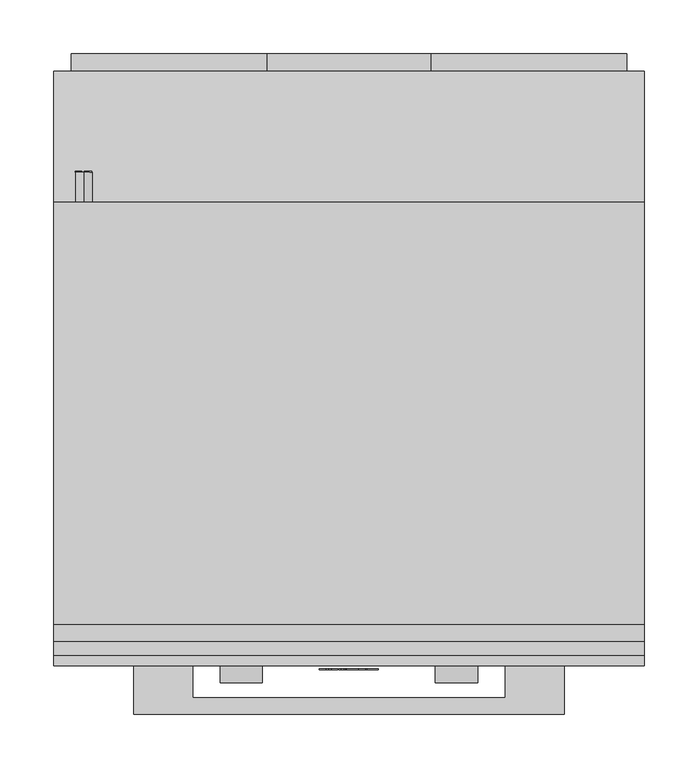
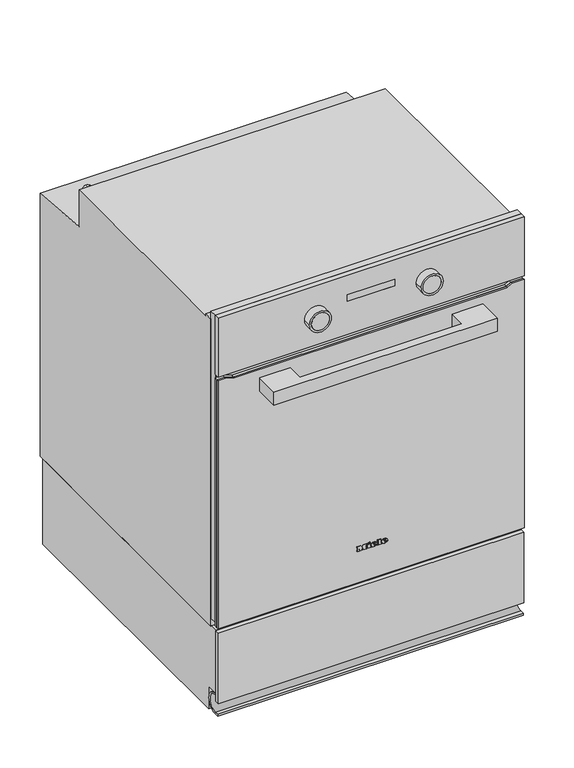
"""IFC4 building model written with IfcOpenShell, lengths in millimetres: proxy geometry, 12146110_CH_H2861-55BP_OBSW : 22286129_CH_12146110_H2861-55BP_OBSW."""

from ifc_helpers import new_model, si_unit, point, frame, frame_2d, origin, place, context, project, spatial, polyline, circle_curve, ellipse_curve, trimmed, segment, composite_curve, outline, extrude, faceted_brep, source, transform, mapped, element, save
from ifc_brep_helpers import plane_surface, cylinder_surface, revolved_surface, extruded_surface, advanced_brep


def specialty_equipment_9ac13989(model_context):
    return source(origin(), model_context, "Body", "SolidModel", [
        extrude(outline(polyline([(-273.5, -14.0), (273.5, -14.0), (273.5, -22.0), (-273.5, -22.0), (-273.5, -14.0)])), frame((0.0, 0.0, 28.0), z_axis=(0.0, 0.0, 1.0), x_axis=(1.0, 0.0, 0.0)), (0.0, 0.0, 1.0), 133.5),
        extrude(outline(composite_curve([segment(polyline([(-20.0, 3.3413786), (-20.0, 6.5166751), (-12.6417749, 6.5166751)]), True, "CONTINUOUS"), segment(trimmed(circle_curve(frame_2d((-12.6417749, 23.0333249)), 16.5166498), [point((-12.6417749, 6.5166751))], [point((-11.3579007, 39.5))], True, "CARTESIAN"), True, "CONTINUOUS"), segment(polyline([(-11.3579007, 39.5), (-14.0, 39.5), (-14.0, 42.0), (-12.0, 42.0)]), True, "CONTINUOUS"), segment(trimmed(circle_curve(frame_2d((-12.0, 23.0)), 19.0), [point((-12.0, 42.0))], [point((7.0, 23.0))], False, "CARTESIAN"), True, "CONTINUOUS"), segment(trimmed(circle_curve(frame_2d((-14.9470942, 23.0)), 21.9470942), [point((7.0, 23.0))], [point((3.3965309, 10.9506696))], False, "CARTESIAN"), True, "CONTINUOUS"), segment(trimmed(circle_curve(frame_2d((-12.0, 22.7225846)), 19.381206), [point((3.3965309, 10.9506696))], [point((-12.0, 3.3413786))], False, "CARTESIAN"), True, "CONTINUOUS"), segment(polyline([(-12.0, 3.3413786), (-20.0, 3.3413786)]), True, "CONTINUOUS")], self_intersect=False)), frame((-273.5, 0.0, 0.0), z_axis=(1.0, 0.0, 0.0), x_axis=(0.0, 1.0, 0.0)), (0.0, 0.0, 1.0), 547.0),
        extrude(outline(polyline([(-14.0, 162.0), (522.0, 162.0), (522.0, 0.0), (8.0, 0.0), (8.0, 43.1784801), (-14.0, 43.1784801), (-14.0, 162.0)])), frame((-273.5, 0.0, 0.0), z_axis=(1.0, 0.0, 0.0), x_axis=(0.0, 1.0, 0.0)), (0.0, 0.0, 1.0), 547.0),
        advanced_brep(
        [(21.28, -26.0, 234.133), (21.28, -26.0, 235.042), (27.301, -26.0, 235.042), (16.825, -26.0, 235.042), (19.3, -26.0, 232.0), (27.148, -26.0, 234.133), (24.43, -26.0, 234.133), (22.288, -26.0, 233.125), (21.28, -26.0, 236.194), (21.28, -26.0, 237.175), (22.819, -26.0, 237.175), (22.819, -26.0, 236.194), (21.28, -25.0, 234.133), (22.288, -25.0, 233.125), (24.43, -25.0, 234.133), (27.148, -25.0, 234.133), (19.3, -25.0, 232.0), (16.825, -25.0, 235.042), (27.301, -25.0, 235.042), (21.28, -25.0, 235.042), (21.28, -25.0, 236.194), (22.819, -25.0, 236.194), (22.819, -25.0, 237.175), (21.28, -25.0, 237.175)],
        [
            (0, 1),
            (1, 2),
            (2, 3, ellipse_curve(frame((22.063, -26.0, 235.042), z_axis=(0.0, -1.0, 0.0), x_axis=(-1.0, 0.0, 0.0)), 5.238, 4.329)),
            (3, 4, circle_curve(frame((20.3080491, -26.0, 235.348), z_axis=(0.0, -1.0, 0.0), x_axis=(0.0, 0.0, -1.0)), 3.4964649)),
            (4, 5, circle_curve(frame((21.9581428, -26.0, 237.724), z_axis=(0.0, -1.0, 0.0), x_axis=(0.0, 0.0, -1.0)), 6.3110933)),
            (5, 6),
            (6, 7, circle_curve(frame((22.7279412, -26.0, 234.97), z_axis=(0.0, 1.0, 0.0), x_axis=(0.0, 0.0, -1.0)), 1.896727)),
            (7, 0, circle_curve(frame((22.288, -26.0, 234.133), z_axis=(0.0, 1.0, 0.0), x_axis=(0.0, 0.0, -1.0)), 1.008)),
            (8, 9),
            (9, 10, circle_curve(frame((22.0495, -26.0, 237.175), z_axis=(0.0, 1.0, 0.0), x_axis=(0.0, 0.0, -1.0)), 0.7695)),
            (10, 11),
            (11, 8),
            (12, 13, circle_curve(frame((22.288, -25.0, 234.133), z_axis=(0.0, -1.0, 0.0), x_axis=(0.0, 0.0, -1.0)), 1.008)),
            (13, 14, circle_curve(frame((22.7279412, -25.0, 234.97), z_axis=(0.0, -1.0, 0.0), x_axis=(0.0, 0.0, -1.0)), 1.896727)),
            (14, 15),
            (15, 16, circle_curve(frame((21.9581428, -25.0, 237.724), z_axis=(0.0, 1.0, 0.0), x_axis=(0.0, 0.0, -1.0)), 6.3110933)),
            (16, 17, circle_curve(frame((20.3080491, -25.0, 235.348), z_axis=(0.0, 1.0, 0.0), x_axis=(0.0, 0.0, -1.0)), 3.4964649)),
            (17, 18, ellipse_curve(frame((22.063, -25.0, 235.042), z_axis=(0.0, 1.0, 0.0), x_axis=(-1.0, 0.0, 0.0)), 5.238, 4.329)),
            (18, 19),
            (19, 12),
            (20, 21),
            (21, 22),
            (22, 23, circle_curve(frame((22.0495, -25.0, 237.175), z_axis=(0.0, -1.0, 0.0), x_axis=(0.0, 0.0, -1.0)), 0.7695)),
            (23, 20),
            (0, 12),
            (19, 1),
            (18, 2),
            (5, 15),
            (14, 6),
            (17, 3),
            (13, 7),
            (16, 4),
            (8, 20),
            (23, 9),
            (22, 10),
            (21, 11),
        ],
        [
            plane_surface(frame((21.28, -26.0, 235.042), z_axis=(0.0, -1.0, 0.0), x_axis=(0.0, 0.0, 1.0))),
            plane_surface(frame((21.28, -25.0, 235.042), z_axis=(0.0, 1.0, 0.0), x_axis=(0.0, 0.0, -1.0))),
            plane_surface(frame((21.28, -26.0, 234.133), z_axis=(1.0, 0.0, 0.0), x_axis=(0.0, 1.0, 0.0))),
            plane_surface(frame((21.28, -26.0, 235.042), z_axis=(0.0, 0.0, -1.0), x_axis=(0.0, 1.0, 0.0))),
            plane_surface(frame((27.148, -26.0, 234.133), z_axis=(0.0, 0.0, 1.0), x_axis=(0.0, 1.0, 0.0))),
            extruded_surface(trimmed(ellipse_curve(frame((22.063, -24.0, 235.042), z_axis=(0.0, -1.0, 0.0), x_axis=(-1.0, 0.0, 0.0)), 5.238, 4.329), [point((27.301, -24.0, 235.042))], [point((16.825, -24.0, 235.042))], True, "CARTESIAN"), (0.0, -1.0, 0.0), 1.0),
            revolved_surface(polyline([(22.7279412, -25.0, 233.073273), (22.7279412, -26.0, 233.073273)]), (22.7279412, -25.0, 234.97), (0.0, 1.0, 0.0)),
            revolved_surface(polyline([(22.288, -25.0, 233.125), (22.288, -26.0, 233.125)]), (22.288, -25.0, 234.133), (0.0, 1.0, 0.0)),
            cylinder_surface(frame((20.3080491, -25.0, 235.348), z_axis=(0.0, -1.0, 0.0), x_axis=(0.0, 0.0, -1.0)), 3.4964649),
            cylinder_surface(frame((21.9581428, -25.0, 237.724), z_axis=(0.0, -1.0, 0.0), x_axis=(0.0, 0.0, -1.0)), 6.3110933),
            plane_surface(frame((21.28, -26.0, 236.194), z_axis=(1.0, 0.0, 0.0), x_axis=(0.0, 1.0, 0.0))),
            revolved_surface(polyline([(22.0495, -25.0, 236.40550000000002), (22.0495, -26.0, 236.40550000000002)]), (22.0495, -25.0, 237.175), (0.0, 1.0, 0.0)),
            plane_surface(frame((22.819, -26.0, 237.175), z_axis=(-1.0, 0.0, 0.0), x_axis=(0.0, 1.0, 0.0))),
            plane_surface(frame((22.819, -26.0, 236.194), z_axis=(0.0, 0.0, 1.0), x_axis=(0.0, 1.0, 0.0))),
        ],
        [
            (0, [[1, 2, 3, 4, 5, 6, 7, 8], [9, 10, 11, 12]]),
            (1, [[13, 14, 15, 16, 17, 18, 19, 20], [21, 22, 23, 24]]),
            (2, [[-1, 25, -20, 26]]),
            (3, [[-2, -26, -19, 27]]),
            (4, [[-6, 28, -15, 29]]),
            (5, [[-3, -27, -18, 30]]),
            (6, [[-7, -29, -14, 31]]),
            (7, [[-8, -31, -13, -25]]),
            (8, [[-4, -30, -17, 32]]),
            (9, [[-5, -32, -16, -28]]),
            (10, [[-9, 33, -24, 34]]),
            (11, [[-10, -34, -23, 35]]),
            (12, [[-11, -35, -22, 36]]),
            (13, [[-12, -36, -21, -33]]),
        ],
    ),
        advanced_brep(
        [(2.497, -26.0, 234.133), (2.497, -26.0, 235.042), (8.518, -26.0, 235.042), (-1.958, -26.0, 235.042), (0.517, -26.0, 232.0), (8.365, -26.0, 234.133), (5.647, -26.0, 234.133), (3.505, -26.0, 233.125), (2.497, -26.0, 236.194), (2.497, -26.0, 237.175), (4.036, -26.0, 237.175), (4.036, -26.0, 236.194), (2.497, -25.0, 234.133), (3.505, -25.0, 233.125), (5.647, -25.0, 234.133), (8.365, -25.0, 234.133), (0.517, -25.0, 232.0), (-1.958, -25.0, 235.042), (8.518, -25.0, 235.042), (2.497, -25.0, 235.042), (2.497, -25.0, 236.194), (4.036, -25.0, 236.194), (4.036, -25.0, 237.175), (2.497, -25.0, 237.175)],
        [
            (0, 1),
            (1, 2),
            (2, 3, ellipse_curve(frame((3.28, -26.0, 235.042), z_axis=(0.0, -1.0, 0.0), x_axis=(-1.0, 0.0, 0.0)), 5.238, 4.329)),
            (3, 4, circle_curve(frame((1.5250491, -26.0, 235.348), z_axis=(0.0, -1.0, 0.0), x_axis=(0.0, 0.0, -1.0)), 3.4964649)),
            (4, 5, circle_curve(frame((3.1751428, -26.0, 237.724), z_axis=(0.0, -1.0, 0.0), x_axis=(0.0, 0.0, -1.0)), 6.3110933)),
            (5, 6),
            (6, 7, circle_curve(frame((3.9449412, -26.0, 234.97), z_axis=(0.0, 1.0, 0.0), x_axis=(0.0, 0.0, -1.0)), 1.896727)),
            (7, 0, circle_curve(frame((3.505, -26.0, 234.133), z_axis=(0.0, 1.0, 0.0), x_axis=(0.0, 0.0, -1.0)), 1.008)),
            (8, 9),
            (9, 10, circle_curve(frame((3.2665, -26.0, 237.175), z_axis=(0.0, 1.0, 0.0), x_axis=(0.0, 0.0, -1.0)), 0.7695)),
            (10, 11),
            (11, 8),
            (12, 13, circle_curve(frame((3.505, -25.0, 234.133), z_axis=(0.0, -1.0, 0.0), x_axis=(0.0, 0.0, -1.0)), 1.008)),
            (13, 14, circle_curve(frame((3.9449412, -25.0, 234.97), z_axis=(0.0, -1.0, 0.0), x_axis=(0.0, 0.0, -1.0)), 1.896727)),
            (14, 15),
            (15, 16, circle_curve(frame((3.1751428, -25.0, 237.724), z_axis=(0.0, 1.0, 0.0), x_axis=(0.0, 0.0, -1.0)), 6.3110933)),
            (16, 17, circle_curve(frame((1.5250491, -25.0, 235.348), z_axis=(0.0, 1.0, 0.0), x_axis=(0.0, 0.0, -1.0)), 3.4964649)),
            (17, 18, ellipse_curve(frame((3.28, -25.0, 235.042), z_axis=(0.0, 1.0, 0.0), x_axis=(-1.0, 0.0, 0.0)), 5.238, 4.329)),
            (18, 19),
            (19, 12),
            (20, 21),
            (21, 22),
            (22, 23, circle_curve(frame((3.2665, -25.0, 237.175), z_axis=(0.0, -1.0, 0.0), x_axis=(0.0, 0.0, -1.0)), 0.7695)),
            (23, 20),
            (0, 12),
            (19, 1),
            (18, 2),
            (5, 15),
            (14, 6),
            (17, 3),
            (13, 7),
            (16, 4),
            (8, 20),
            (23, 9),
            (22, 10),
            (21, 11),
        ],
        [
            plane_surface(frame((2.497, -26.0, 235.042), z_axis=(0.0, -1.0, 0.0), x_axis=(0.0, 0.0, 1.0))),
            plane_surface(frame((2.497, -25.0, 235.042), z_axis=(0.0, 1.0, 0.0), x_axis=(0.0, 0.0, -1.0))),
            plane_surface(frame((2.497, -26.0, 234.133), z_axis=(1.0, 0.0, 0.0), x_axis=(0.0, 1.0, 0.0))),
            plane_surface(frame((2.497, -26.0, 235.042), z_axis=(0.0, 0.0, -1.0), x_axis=(0.0, 1.0, 0.0))),
            plane_surface(frame((8.365, -26.0, 234.133), z_axis=(0.0, 0.0, 1.0), x_axis=(0.0, 1.0, 0.0))),
            extruded_surface(trimmed(ellipse_curve(frame((3.28, -24.0, 235.042), z_axis=(0.0, -1.0, 0.0), x_axis=(-1.0, 0.0, 0.0)), 5.238, 4.329), [point((8.518, -24.0, 235.042))], [point((-1.958, -24.0, 235.042))], True, "CARTESIAN"), (0.0, -1.0, 0.0), 1.0),
            revolved_surface(polyline([(3.9449412, -25.0, 233.073273), (3.9449412, -26.0, 233.073273)]), (3.9449412, -25.0, 234.97), (0.0, 1.0, 0.0)),
            revolved_surface(polyline([(3.505, -25.0, 233.125), (3.505, -26.0, 233.125)]), (3.505, -25.0, 234.133), (0.0, 1.0, 0.0)),
            cylinder_surface(frame((1.5250491, -25.0, 235.348), z_axis=(0.0, -1.0, 0.0), x_axis=(0.0, 0.0, -1.0)), 3.4964649),
            cylinder_surface(frame((3.1751428, -25.0, 237.724), z_axis=(0.0, -1.0, 0.0), x_axis=(0.0, 0.0, -1.0)), 6.3110933),
            plane_surface(frame((2.497, -26.0, 236.194), z_axis=(1.0, 0.0, 0.0), x_axis=(0.0, 1.0, 0.0))),
            revolved_surface(polyline([(3.2665, -25.0, 236.40550000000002), (3.2665, -26.0, 236.40550000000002)]), (3.2665, -25.0, 237.175), (0.0, 1.0, 0.0)),
            plane_surface(frame((4.036, -26.0, 237.175), z_axis=(-1.0, 0.0, 0.0), x_axis=(0.0, 1.0, 0.0))),
            plane_surface(frame((4.036, -26.0, 236.194), z_axis=(0.0, 0.0, 1.0), x_axis=(0.0, 1.0, 0.0))),
        ],
        [
            (0, [[1, 2, 3, 4, 5, 6, 7, 8], [9, 10, 11, 12]]),
            (1, [[13, 14, 15, 16, 17, 18, 19, 20], [21, 22, 23, 24]]),
            (2, [[-1, 25, -20, 26]]),
            (3, [[-2, -26, -19, 27]]),
            (4, [[-6, 28, -15, 29]]),
            (5, [[-3, -27, -18, 30]]),
            (6, [[-7, -29, -14, 31]]),
            (7, [[-8, -31, -13, -25]]),
            (8, [[-4, -30, -17, 32]]),
            (9, [[-5, -32, -16, -28]]),
            (10, [[-9, 33, -24, 34]]),
            (11, [[-10, -34, -23, 35]]),
            (12, [[-11, -35, -22, 36]]),
            (13, [[-12, -36, -21, -33]]),
        ],
    ),
        extrude(outline(polyline([(240.469, -7.34), (239.011, -6.656), (240.433, -3.605), (241.891, -4.28), (240.469, -7.34)])), frame((0.0, -26.0, 0.0), z_axis=(0.0, 1.0, 0.0), x_axis=(0.0, 0.0, 1.0)), (0.0, 0.0, 1.0), 1.0),
        extrude(outline(polyline([(238.813, -9.563), (237.202, -9.563), (237.202, -8.492), (233.512, -8.492), (233.512, -9.563), (232.0, -9.563), (232.0, -2.462), (233.512, -2.462), (233.512, -3.506), (238.813, -3.506), (238.813, -9.563)])), frame((0.0, -26.0, 0.0), z_axis=(0.0, 1.0, 0.0), x_axis=(0.0, 0.0, 1.0)), (0.0, 0.0, 1.0), 1.0),
        extrude(outline(polyline([(239.533, 9.022), (239.533, 10.102), (233.512, 10.102), (233.512, 9.022), (232.0, 9.022), (232.0, 16.321), (233.512, 16.321), (233.512, 15.214), (241.0, 15.214), (241.0, 9.022), (239.533, 9.022)])), frame((0.0, -26.0, 0.0), z_axis=(0.0, 1.0, 0.0), x_axis=(0.0, 0.0, 1.0)), (0.0, 0.0, 1.0), 1.0),
        extrude(outline(polyline([(239.533, -27.5), (239.533, -26.411), (233.512, -26.411), (233.512, -27.5), (232.0, -27.5), (232.0, -23.54), (233.512, -23.54), (233.512, -24.62), (237.3341247, -24.62), (232.0, -20.597), (237.4402223, -16.556), (233.512, -16.556), (233.512, -17.663), (232.0, -17.663), (232.0, -10.481), (233.512, -10.481), (233.512, -11.624), (239.533, -11.624), (239.533, -10.481), (241.0, -10.481), (241.0, -15.962), (237.625, -18.59), (241.0, -21.227), (241.0, -27.5), (239.533, -27.5)])), frame((0.0, -26.0, 0.0), z_axis=(0.0, 1.0, 0.0), x_axis=(0.0, 0.0, 1.0)), (0.0, 0.0, 1.0), 1.0),
        extrude(outline(polyline([(-200.0, -67.0), (-200.0, -22.0), (-145.0, -22.0), (-145.0, -52.0), (145.0, -52.0), (145.0, -22.0), (200.0, -22.0), (200.0, -67.0), (-200.0, -67.0)])), frame((0.0, 0.0, 595.0), z_axis=(0.0, 0.0, 1.0), x_axis=(1.0, 0.0, 0.0)), (0.0, 0.0, 1.0), 24.0),
        extrude(outline(polyline([(639.5, -274.0), (170.0, -274.0), (170.0, 274.0), (639.5, 274.0), (639.5, 252.5209298), (634.5, 244.0), (634.5, -244.0), (639.5, -260.3542631), (639.5, -274.0)])), frame((0.0, -18.0, 0.0), z_axis=(0.0, 1.0, 0.0), x_axis=(0.0, 0.0, 1.0)), (0.0, 0.0, 1.0), 5.0),
        extrude(outline(polyline([(639.5, -274.0), (170.0, -274.0), (170.0, 274.0), (639.5, 274.0), (639.5, 252.5209298), (634.5, 244.0), (634.5, -244.0), (639.5, -260.3542631), (639.5, -274.0)])), frame((0.0, -22.0, 0.0), z_axis=(0.0, 1.0, 0.0), x_axis=(0.0, 0.0, 1.0)), (0.0, 0.0, 1.0), 4.0),
        extrude(outline(polyline([(42.5, -22.0), (-42.5, -22.0), (-42.5, -20.0), (42.5, -20.0), (42.5, -22.0)])), frame((0.0, 0.0, 709.0), z_axis=(0.0, 0.0, 1.0), x_axis=(1.0, 0.0, 0.0)), (0.0, 0.0, 1.0), 12.0),
        faceted_brep([(274.0, -13.0, 758.0), (274.0, -13.0, 646.5), (-274.0, -13.0, 646.5), (-274.0, -13.0, 758.0), (274.0, -22.0, 646.5), (-274.0, -22.0, 646.5), (274.0, -22.0, 758.0), (-274.0, -22.0, 758.0), (-42.5, -22.0, 721.0), (42.5, -22.0, 721.0), (42.5, -22.0, 709.0), (-42.5, -22.0, 709.0), (-42.5, -20.0, 721.0), (42.5, -20.0, 721.0), (-42.5, -20.0, 709.0), (42.5, -20.0, 709.0)], [[[0, 1, 2, 3]], [[4, 5, 2, 1]], [[6, 7, 5, 4], [8, 9, 10, 11]], [[12, 13, 9, 8]], [[7, 6, 0, 3]], [[5, 7, 3, 2]], [[6, 4, 1, 0]], [[13, 12, 14, 15]], [[14, 12, 8, 11]], [[15, 14, 11, 10]], [[13, 15, 10, 9]]]),
        extrude(outline(composite_curve([segment(trimmed(circle_curve(frame_2d((700.5, -100.0)), 16.0), [point((700.5, -116.0))], [point((700.5, -84.0))], False, "CARTESIAN"), True, "CONTINUOUS"), segment(trimmed(circle_curve(frame_2d((700.5, -100.0)), 16.0), [point((700.5, -84.0))], [point((700.5, -116.0))], False, "CARTESIAN"), True, "CONTINUOUS")], self_intersect=False)), frame((0.0, -38.0, 0.0), z_axis=(0.0, 1.0, 0.0), x_axis=(0.0, 0.0, 1.0)), (0.0, 0.0, 1.0), 16.0),
        extrude(outline(composite_curve([segment(trimmed(circle_curve(frame_2d((700.5, 100.0)), 16.0), [point((700.5, 84.0))], [point((700.5, 116.0))], False, "CARTESIAN"), True, "CONTINUOUS"), segment(trimmed(circle_curve(frame_2d((700.5, 100.0)), 16.0), [point((700.5, 116.0))], [point((700.5, 84.0))], False, "CARTESIAN"), True, "CONTINUOUS")], self_intersect=False)), frame((0.0, -38.0, 0.0), z_axis=(0.0, 1.0, 0.0), x_axis=(0.0, 0.0, 1.0)), (0.0, 0.0, 1.0), 16.0),
        extrude(outline(composite_curve([segment(trimmed(circle_curve(frame_2d((700.5, 100.0)), 19.7), [point((700.5, 80.3))], [point((700.5, 119.7))], False, "CARTESIAN"), True, "CONTINUOUS"), segment(trimmed(circle_curve(frame_2d((700.5, 100.0)), 19.7), [point((700.5, 119.7))], [point((700.5, 80.3))], False, "CARTESIAN"), True, "CONTINUOUS")], self_intersect=False), holes=[composite_curve([segment(trimmed(circle_curve(frame_2d((700.5, 100.0)), 16.0), [point((700.5, 84.0))], [point((700.5, 116.0))], True, "CARTESIAN"), True, "CONTINUOUS"), segment(trimmed(circle_curve(frame_2d((700.5, 100.0)), 16.0), [point((700.5, 116.0))], [point((700.5, 84.0))], True, "CARTESIAN"), True, "CONTINUOUS")], self_intersect=False)]), frame((0.0, -38.0, 0.0), z_axis=(0.0, 1.0, 0.0), x_axis=(0.0, 0.0, 1.0)), (0.0, 0.0, 1.0), 16.0),
        extrude(outline(composite_curve([segment(trimmed(circle_curve(frame_2d((700.5, -100.0)), 19.7), [point((700.5, -119.7))], [point((700.5, -80.3))], False, "CARTESIAN"), True, "CONTINUOUS"), segment(trimmed(circle_curve(frame_2d((700.5, -100.0)), 19.7), [point((700.5, -80.3))], [point((700.5, -119.7))], False, "CARTESIAN"), True, "CONTINUOUS")], self_intersect=False), holes=[composite_curve([segment(trimmed(circle_curve(frame_2d((700.5, -100.0)), 16.0), [point((700.5, -116.0))], [point((700.5, -84.0))], True, "CARTESIAN"), True, "CONTINUOUS"), segment(trimmed(circle_curve(frame_2d((700.5, -100.0)), 16.0), [point((700.5, -84.0))], [point((700.5, -116.0))], True, "CARTESIAN"), True, "CONTINUOUS")], self_intersect=False)]), frame((0.0, -38.0, 0.0), z_axis=(0.0, 1.0, 0.0), x_axis=(0.0, 0.0, 1.0)), (0.0, 0.0, 1.0), 16.0),
        faceted_brep([(274.0, 0.0, 162.0), (274.0, 530.0, 162.0), (274.0, 530.0, 659.4219562), (274.0, 408.0, 670.5494875), (274.0, 408.0, 740.0), (274.0, 16.0, 740.0), (274.0, 16.0, 743.0), (274.0, 0.0, 743.0), (-274.0, 0.0, 162.0), (-274.0, 0.0, 743.0), (-274.0, 16.0, 743.0), (-274.0, 16.0, 740.0), (-274.0, 408.0, 740.0), (-274.0, 408.0, 670.5494875), (-274.0, 530.0, 659.4219562), (-274.0, 530.0, 162.0), (-235.0, 0.0, 590.0), (235.0, 0.0, 590.0), (235.0, 0.0, 204.0), (-235.0, 0.0, 204.0), (235.0, 433.0, 590.0), (-235.0, 433.0, 590.0), (-235.0, 433.0, 204.0), (235.0, 433.0, 204.0)], [[[0, 1, 2, 3, 4, 5, 6, 7]], [[8, 9, 10, 11, 12, 13, 14, 15]], [[1, 0, 8, 15]], [[1, 15, 14, 2]], [[11, 5, 4, 12]], [[0, 7, 9, 8], [16, 17, 18, 19]], [[6, 5, 11, 10]], [[7, 6, 10, 9]], [[13, 3, 2, 14]], [[3, 13, 12, 4]], [[20, 21, 22, 23]], [[21, 20, 17, 16]], [[22, 21, 16, 19]], [[23, 22, 19, 18]], [[20, 23, 18, 17]]]),
        extrude(outline(polyline([(720.0464496, -245.8425503), (718.7915157, -245.8425503), (718.7915157, -239.8786472), (715.8088265, -239.8786472), (715.8088265, -245.5253567), (714.5510117, -245.5253567), (714.5510117, -239.8786472), (711.2605911, -239.8786472), (711.2605911, -245.9946301), (709.9978772, -245.9946301), (709.9978772, -238.6251477), (720.0464496, -238.6251477), (720.0464496, -245.8425503)])), frame((0.0, 436.0, 0.0), z_axis=(0.0, 1.0, 0.0), x_axis=(0.0, 0.0, 1.0)), (0.0, 0.0, 1.0), 1.0),
        extrude(outline(polyline([(720.0498619, -249.1372374), (711.2558696, -249.1372374), (711.2558696, -254.1557124), (710.0011788, -254.1557124), (710.0011788, -247.8766443), (720.0498619, -247.8766443), (720.0498619, -249.1372374)])), frame((0.0, 436.0, 0.0), z_axis=(0.0, 1.0, 0.0), x_axis=(0.0, 0.0, 1.0)), (0.0, 0.0, 1.0), 1.0),
        extrude(outline(composite_curve([segment(trimmed(circle_curve(frame_2d((715.0, -246.0)), 7.5), [point((707.5, -246.0))], [point((722.5, -246.0))], False, "CARTESIAN"), True, "CONTINUOUS"), segment(trimmed(circle_curve(frame_2d((715.0, -246.0)), 7.5), [point((722.5, -246.0))], [point((707.5, -246.0))], False, "CARTESIAN"), True, "CONTINUOUS")], self_intersect=False)), frame((0.0, 406.0, 0.0), z_axis=(0.0, 1.0, 0.0), x_axis=(0.0, 0.0, 1.0)), (0.0, 0.0, 1.0), 30.0),
        extrude(outline(polyline([(499.5, 76.0), (540.5, 76.0), (540.5, -76.0), (499.5, -76.0), (499.5, -258.0), (351.6961275, -258.0), (351.6961275, -76.0), (326.5, -76.0), (326.5, 76.0), (351.6961275, 76.0), (351.6961275, 258.0), (499.5, 258.0), (499.5, 76.0)])), frame((0.0, 530.0, 0.0), z_axis=(0.0, 1.0, 0.0), x_axis=(0.0, 0.0, 1.0)), (0.0, 0.0, 1.0), 16.0),
        extrude(outline(polyline([(177.0, 274.0), (758.0, 274.0), (758.0, -274.0), (177.0, -274.0), (177.0, -272.0), (646.0, -272.0), (646.0, 272.0), (177.0, 272.0), (177.0, 274.0)])), frame((0.0, -13.0, 0.0), z_axis=(0.0, 1.0, 0.0), x_axis=(0.0, 0.0, 1.0)), (0.0, 0.0, 1.0), 13.0),
    ])


if __name__ == "__main__":
    model = new_model("IFC4")
    model_context = context("Model", 3, world=origin())
    ifc_project = project(units=[si_unit("LENGTHUNIT", "METRE", prefix="MILLI")], contexts=[model_context])
    site = spatial("IfcSite", under=ifc_project)
    building = spatial("IfcBuilding", under=site)
    placement = place(None, origin())
    specialty_equipment_shape = specialty_equipment_9ac13989(model_context)
    element("IfcBuildingElementProxy", 1, Name="12146110_CH_H2861-55BP_OBSW : 22286129_CH_12146110_H2861-55BP_OBSW", ObjectType="12146110_CH_H2861-55BP_OBSW : 22286129_CH_12146110_H2861-55BP_OBSW", at=placement, inside=building, context=model_context, shape_type="MappedRepresentation", body=[
        mapped(specialty_equipment_shape, transform((0.0, 0.0, 0.0), x_axis=(1.0, 0.0, 0.0), y_axis=(0.0, 1.0, 0.0), z_axis=(0.0, 0.0, 1.0))),
    ])
    save(model, "model.ifc")
